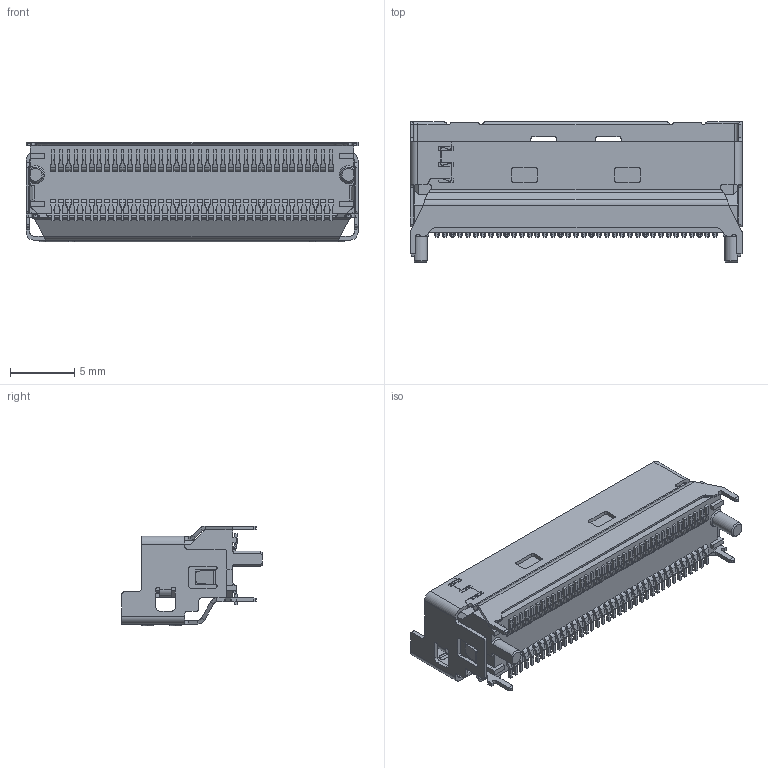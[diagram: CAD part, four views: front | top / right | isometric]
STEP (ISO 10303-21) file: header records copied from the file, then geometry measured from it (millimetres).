
FILE_DESCRIPTION((''),'2;1');
FILE_NAME('PRT0012','2024-05-18T14:31:56',('ZL'),(''),'CREO PARAMETRIC BY PTC INC, 2020053','CREO PARAMETRIC BY PTC INC, 2020053','');
FILE_SCHEMA(('AUTOMOTIVE_DESIGN { 1 0 10303 214 1 1 1 1 }'));
Products named in the file (1): PRT0012
Bounding box: 25.8 x 10.9 x 7.77 mm (x, y, z)
Volume: 785.7 mm3; surface area: 2074.3 mm2
Topology: 1 solids, 1 shells, 4712 faces, 12331 edges, 7692 vertices
Faces by surface type: plane 2706, cylinder 1666, bspline 169, torus 160, cone 11
Entity records: 182675 total; most frequent: CARTESIAN_POINT 33105, ORIENTED_EDGE 24662, DIRECTION 24089, EDGE_CURVE 12331, VECTOR 8284, LINE 8284, AXIS2_PLACEMENT_3D 7901, VERTEX_POINT 7692
